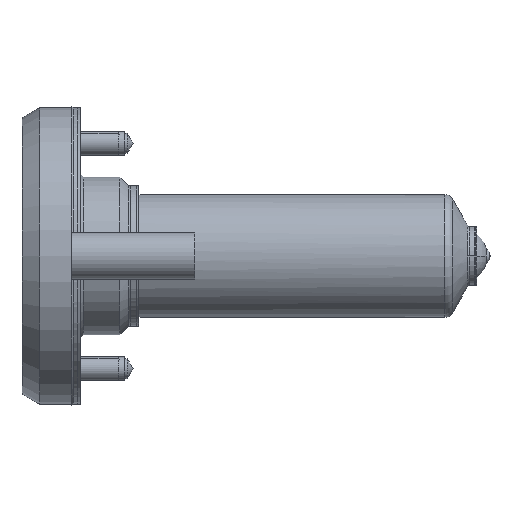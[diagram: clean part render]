
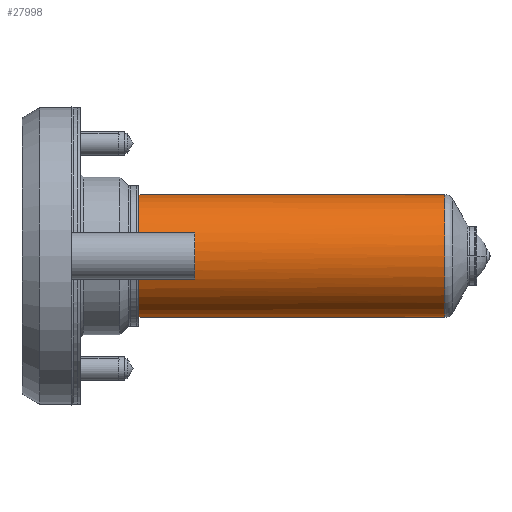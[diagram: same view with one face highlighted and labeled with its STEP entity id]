
A CAD part, left-side view. The second image highlights one B-rep face of the part: STEP entity #27998.
In plain terms, the highlighted cylindrical face has radius 21 mm (diameter 42 mm), a partial arc.
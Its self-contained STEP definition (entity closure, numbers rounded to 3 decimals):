
#141 = CARTESIAN_POINT ( 'NONE',  ( 0., -119.528, 0. ) ) ;
#678 = CARTESIAN_POINT ( 'NONE',  ( 0., -119.528, -21. ) ) ;
#1055 = CARTESIAN_POINT ( 'NONE',  ( 0., -15., 0. ) ) ;
#1140 = LINE ( 'NONE', #23444, #4136 ) ;
#1327 = AXIS2_PLACEMENT_3D ( 'NONE', #141, #24774, #4377 ) ;
#1460 = DIRECTION ( 'NONE',  ( 0., 1., 0. ) ) ;
#1828 = AXIS2_PLACEMENT_3D ( 'NONE', #18593, #7372, #27625 ) ;
#2198 = DIRECTION ( 'NONE',  ( 0., -1., 0. ) ) ;
#2230 = ORIENTED_EDGE ( 'NONE', *, *, #12088, .T. ) ;
#2560 = VERTEX_POINT ( 'NONE', #678 ) ;
#2962 = DIRECTION ( 'NONE',  ( 0., 0., -1. ) ) ;
#3282 = VERTEX_POINT ( 'NONE', #19327 ) ;
#3601 = EDGE_CURVE ( 'NONE', #20569, #22235, #8650, .T. ) ;
#3755 = VECTOR ( 'NONE', #26898, 1000. ) ;
#3859 = CARTESIAN_POINT ( 'NONE',  ( -19.416, -15., 8. ) ) ;
#4136 = VECTOR ( 'NONE', #18384, 1000. ) ;
#4377 = DIRECTION ( 'NONE',  ( 0., 0., -1. ) ) ;
#5523 = EDGE_CURVE ( 'NONE', #8289, #2560, #1140, .T. ) ;
#5848 = EDGE_CURVE ( 'NONE', #20569, #8289, #27443, .T. ) ;
#6177 = CARTESIAN_POINT ( 'NONE',  ( -19.416, -90.37, -8. ) ) ;
#7372 = DIRECTION ( 'NONE',  ( 0., -1., 0. ) ) ;
#8289 = VERTEX_POINT ( 'NONE', #9581 ) ;
#8650 = LINE ( 'NONE', #6177, #25125 ) ;
#8730 = ORIENTED_EDGE ( 'NONE', *, *, #19290, .F. ) ;
#8804 = CIRCLE ( 'NONE', #1327, 21. ) ;
#8919 = VERTEX_POINT ( 'NONE', #11437 ) ;
#9000 = ORIENTED_EDGE ( 'NONE', *, *, #27571, .F. ) ;
#9453 = ORIENTED_EDGE ( 'NONE', *, *, #3601, .F. ) ;
#9581 = CARTESIAN_POINT ( 'NONE',  ( 0., -15., -21. ) ) ;
#9974 = EDGE_CURVE ( 'NONE', #22235, #8919, #26707, .T. ) ;
#10828 = VECTOR ( 'NONE', #27716, 1000. ) ;
#11437 = CARTESIAN_POINT ( 'NONE',  ( -19.416, -34., 8. ) ) ;
#12088 = EDGE_CURVE ( 'NONE', #20319, #8919, #18022, .T. ) ;
#13421 = EDGE_CURVE ( 'NONE', #3282, #20319, #19193, .T. ) ;
#13591 = DIRECTION ( 'NONE',  ( 0., 0., -1. ) ) ;
#13659 = CARTESIAN_POINT ( 'NONE',  ( -19.416, -90.37, 8. ) ) ;
#15083 = DIRECTION ( 'NONE',  ( 0., -1., 0. ) ) ;
#15506 = AXIS2_PLACEMENT_3D ( 'NONE', #22029, #2198, #13591 ) ;
#16279 = ORIENTED_EDGE ( 'NONE', *, *, #9974, .F. ) ;
#16459 = AXIS2_PLACEMENT_3D ( 'NONE', #27712, #1460, #23186 ) ;
#17094 = ORIENTED_EDGE ( 'NONE', *, *, #13421, .T. ) ;
#17824 = CYLINDRICAL_SURFACE ( 'NONE', #15506, 21. ) ;
#18022 = LINE ( 'NONE', #13659, #3755 ) ;
#18286 = EDGE_LOOP ( 'NONE', ( #9000, #17094, #2230, #16279, #9453, #21326, #25578, #8730 ) ) ;
#18384 = DIRECTION ( 'NONE',  ( 0., -1., 0. ) ) ;
#18593 = CARTESIAN_POINT ( 'NONE',  ( 0., -15., 0. ) ) ;
#18662 = VERTEX_POINT ( 'NONE', #25473 ) ;
#19193 = CIRCLE ( 'NONE', #23374, 21. ) ;
#19290 = EDGE_CURVE ( 'NONE', #18662, #2560, #8804, .T. ) ;
#19327 = CARTESIAN_POINT ( 'NONE',  ( 0., -15., 21. ) ) ;
#20319 = VERTEX_POINT ( 'NONE', #3859 ) ;
#20413 = FACE_OUTER_BOUND ( 'NONE', #18286, .T. ) ;
#20569 = VERTEX_POINT ( 'NONE', #23780 ) ;
#21016 = CARTESIAN_POINT ( 'NONE',  ( 0., -90.37, 21. ) ) ;
#21326 = ORIENTED_EDGE ( 'NONE', *, *, #5848, .T. ) ;
#22029 = CARTESIAN_POINT ( 'NONE',  ( 0., -90.37, 0. ) ) ;
#22235 = VERTEX_POINT ( 'NONE', #25812 ) ;
#22937 = DIRECTION ( 'NONE',  ( 0., -1., 0. ) ) ;
#23186 = DIRECTION ( 'NONE',  ( 0., 0., 1. ) ) ;
#23374 = AXIS2_PLACEMENT_3D ( 'NONE', #1055, #22937, #2962 ) ;
#23444 = CARTESIAN_POINT ( 'NONE',  ( 0., -90.37, -21. ) ) ;
#23780 = CARTESIAN_POINT ( 'NONE',  ( -19.416, -15., -8. ) ) ;
#24774 = DIRECTION ( 'NONE',  ( 0., -1., 0. ) ) ;
#25125 = VECTOR ( 'NONE', #15083, 1000. ) ;
#25473 = CARTESIAN_POINT ( 'NONE',  ( 0., -119.528, 21. ) ) ;
#25578 = ORIENTED_EDGE ( 'NONE', *, *, #5523, .T. ) ;
#25812 = CARTESIAN_POINT ( 'NONE',  ( -19.416, -34., -8. ) ) ;
#26707 = CIRCLE ( 'NONE', #16459, 21. ) ;
#26898 = DIRECTION ( 'NONE',  ( 0., -1., 0. ) ) ;
#27443 = CIRCLE ( 'NONE', #1828, 21. ) ;
#27571 = EDGE_CURVE ( 'NONE', #3282, #18662, #27583, .T. ) ;
#27583 = LINE ( 'NONE', #21016, #10828 ) ;
#27625 = DIRECTION ( 'NONE',  ( 0., 0., -1. ) ) ;
#27712 = CARTESIAN_POINT ( 'NONE',  ( 0., -34., 0. ) ) ;
#27716 = DIRECTION ( 'NONE',  ( 0., -1., 0. ) ) ;
#27998 = ADVANCED_FACE ( 'NONE', ( #20413 ), #17824, .T. ) ;
